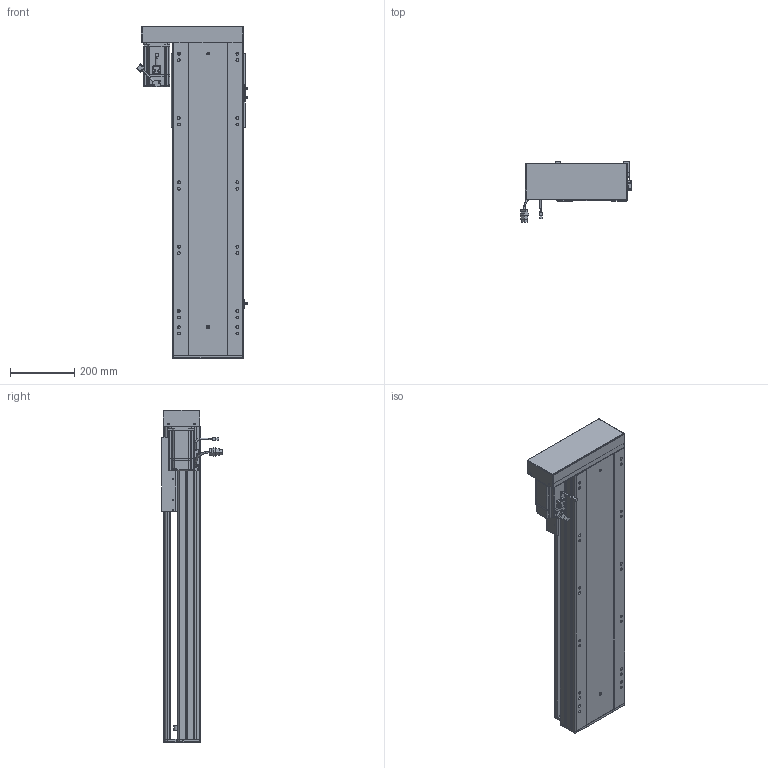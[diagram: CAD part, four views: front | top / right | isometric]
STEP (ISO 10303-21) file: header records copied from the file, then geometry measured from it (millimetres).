
FILE_DESCRIPTION (( 'STEP AP203' ), '1' );
FILE_NAME ('RY220-L2525-300-LK.SLDASM_650.step', '2022-07-04T01:46:39', ( '' ), ( '' ), 'SwSTEP 2.0', 'SolidWorks 2016', '' );
FILE_SCHEMA (( 'CONFIG_CONTROL_DESIGN' ));
Length unit declared in the file: millimetre
Products named in the file (12): RY220綴裔啣; 覜茼ん672; RY220左右折电机安装板; 滅袉蝶18-15; 怢湛750W_ECMA-CX0807ES; RY220-L2525-300-LK.SLDASM_650; RY220-300-蛌殏奻裔啣_650; RY220-俋离672覜茼んえ; 滅袉蝶18-10; RY220半封闭25-32螺母铝滑块; RY220酘衵殏萇儂欶; RY220蛌殏菁釱-300_650
Assembly tree (15 placements, depth 2):
  RY220-L2525-300-LK.SLDASM_650
    RY220蛌殏菁釱-300_650
    RY220-300-蛌殏奻裔啣_650
    怢湛750W_ECMA-CX0807ES
    滅袉蝶18-10  x2
    RY220-俋离672覜茼んえ
    覜茼ん672  x3
    RY220綴裔啣
    RY220半封闭25-32螺母铝滑块
    滅袉蝶18-15  x2
    RY220左右折电机安装板
    RY220酘衵殏萇儂欶
Bounding box: 347.44 x 189.27 x 1032 mm (x, y, z)
Volume: 9293000.4 mm3; surface area: 2639300.5 mm2
Topology: 16 solids, 16 shells, 2077 faces, 5732 edges, 3643 vertices
Faces by surface type: cylinder 921, plane 896, cone 190, bspline 44, sphere 16, torus 10
Entity records: 68669 total; most frequent: CARTESIAN_POINT 20087, ORIENTED_EDGE 10112, DIRECTION 9424, EDGE_CURVE 5056, VERTEX_POINT 3299, AXIS2_PLACEMENT_3D 3287, LINE 2850, VECTOR 2850
